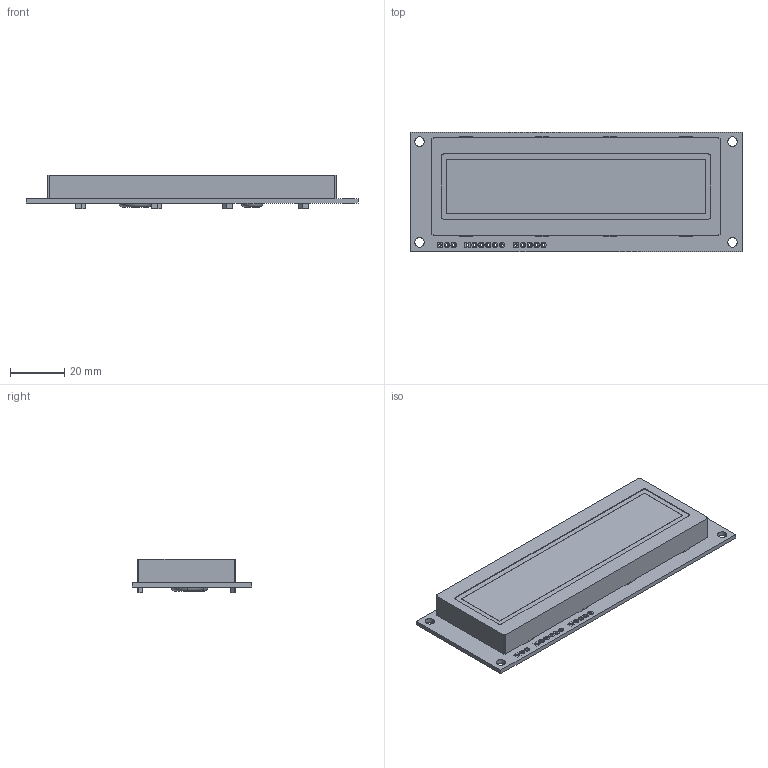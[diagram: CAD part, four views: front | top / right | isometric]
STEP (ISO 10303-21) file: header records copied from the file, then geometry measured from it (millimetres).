
FILE_DESCRIPTION (( 'STEP AP214' ), '1' );
FILE_NAME ('NHD-0216S3Z-FL.STEP', '2018-02-26T22:28:36', ( '' ), ( '' ), 'SwSTEP 2.0', 'SolidWorks 2018', '' );
FILE_SCHEMA (( 'AUTOMOTIVE_DESIGN' ));
Length unit declared in the file: millimetre
Products named in the file (1): NHD-0216S3Z-FL
Bounding box: 122 x 44 x 12.3 mm (x, y, z)
Volume: 41010.4 mm3; surface area: 14196.1 mm2
Topology: 1 solids, 1 shells, 315 faces, 824 edges, 536 vertices
Faces by surface type: plane 195, cylinder 116, torus 4
Entity records: 13111 total; most frequent: DIRECTION 1700, CARTESIAN_POINT 1676, ORIENTED_EDGE 1648, EDGE_CURVE 824, LINE 580, VECTOR 580, AXIS2_PLACEMENT_3D 560, VERTEX_POINT 536
